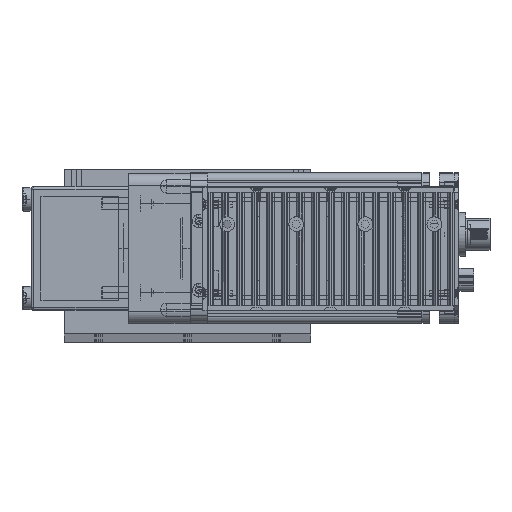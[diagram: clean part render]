
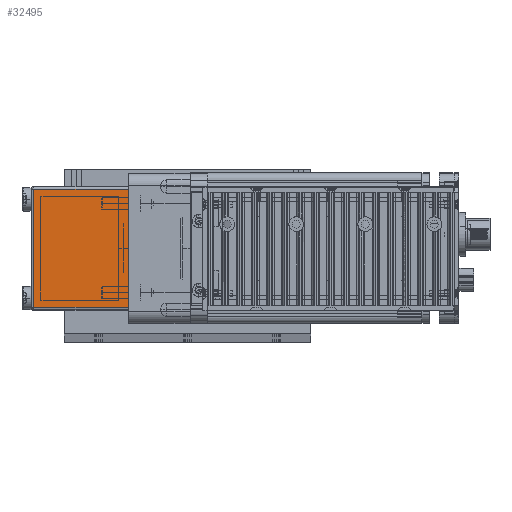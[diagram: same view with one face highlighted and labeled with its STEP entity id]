
A CAD part, top view. The second image highlights one B-rep face of the part: STEP entity #32495.
In plain terms, the highlighted planar face has unit normal (0, 0, 1) as drawn and (1, 0, 0) by its records, which use the part's own axes.
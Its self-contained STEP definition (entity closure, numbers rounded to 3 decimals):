
#9183 = VECTOR ( 'NONE', #9195, 1000. ) ;
#9191 = AXIS2_PLACEMENT_3D ( 'NONE', #9230, #9223, #9222 ) ;
#9194 = FACE_OUTER_BOUND ( 'NONE', #32268, .T. ) ;
#9195 = DIRECTION ( 'NONE',  ( 0., 1., 0. ) ) ;
#9196 = CARTESIAN_POINT ( 'NONE',  ( 62., -25., 0. ) ) ;
#9199 = LINE ( 'NONE', #9196, #9183 ) ;
#9219 = DIRECTION ( 'NONE',  ( 0., 1., 0. ) ) ;
#9220 = VECTOR ( 'NONE', #9219, 1000. ) ;
#9222 = DIRECTION ( 'NONE',  ( 0., -1., 0. ) ) ;
#9223 = DIRECTION ( 'NONE',  ( -1., 0., 0. ) ) ;
#9225 = CARTESIAN_POINT ( 'NONE',  ( 62., -25., 38.5 ) ) ;
#9226 = LINE ( 'NONE', #9225, #9220 ) ;
#9229 = PLANE ( 'NONE',  #9191 ) ;
#9230 = CARTESIAN_POINT ( 'NONE',  ( 62., 25., 39.5 ) ) ;
#16528 = CARTESIAN_POINT ( 'NONE',  ( 62., 24., 0. ) ) ;
#16828 = CARTESIAN_POINT ( 'NONE',  ( 62., -24., 38.5 ) ) ;
#16833 = CARTESIAN_POINT ( 'NONE',  ( 62., -24., 0. ) ) ;
#16839 = CARTESIAN_POINT ( 'NONE',  ( 62., 24., 38.5 ) ) ;
#17007 = VECTOR ( 'NONE', #17014, 1000. ) ;
#17014 = DIRECTION ( 'NONE',  ( 0., 0., 1. ) ) ;
#17015 = CARTESIAN_POINT ( 'NONE',  ( 62., -24., 39.5 ) ) ;
#17016 = LINE ( 'NONE', #17015, #17007 ) ;
#17028 = VECTOR ( 'NONE', #17072, 1000. ) ;
#17029 = CARTESIAN_POINT ( 'NONE',  ( 62., 24., 39.5 ) ) ;
#17072 = DIRECTION ( 'NONE',  ( 0., 0., -1. ) ) ;
#17079 = LINE ( 'NONE', #17029, #17028 ) ;
#32268 = EDGE_LOOP ( 'NONE', ( #32658, #32476, #32526, #32527 ) ) ;
#32476 = ORIENTED_EDGE ( 'NONE', *, *, #32493, .T. ) ;
#32493 = EDGE_CURVE ( 'NONE', #48731, #48551, #9199, .T. ) ;
#32495 = ADVANCED_FACE ( 'NONE', ( #9194 ), #9229, .F. ) ;
#32515 = EDGE_CURVE ( 'NONE', #48712, #48703, #9226, .T. ) ;
#32526 = ORIENTED_EDGE ( 'NONE', *, *, #48812, .F. ) ;
#32527 = ORIENTED_EDGE ( 'NONE', *, *, #32515, .F. ) ;
#32658 = ORIENTED_EDGE ( 'NONE', *, *, #48800, .F. ) ;
#48551 = VERTEX_POINT ( 'NONE', #16528 ) ;
#48703 = VERTEX_POINT ( 'NONE', #16839 ) ;
#48712 = VERTEX_POINT ( 'NONE', #16828 ) ;
#48731 = VERTEX_POINT ( 'NONE', #16833 ) ;
#48800 = EDGE_CURVE ( 'NONE', #48731, #48712, #17016, .T. ) ;
#48812 = EDGE_CURVE ( 'NONE', #48703, #48551, #17079, .T. ) ;
